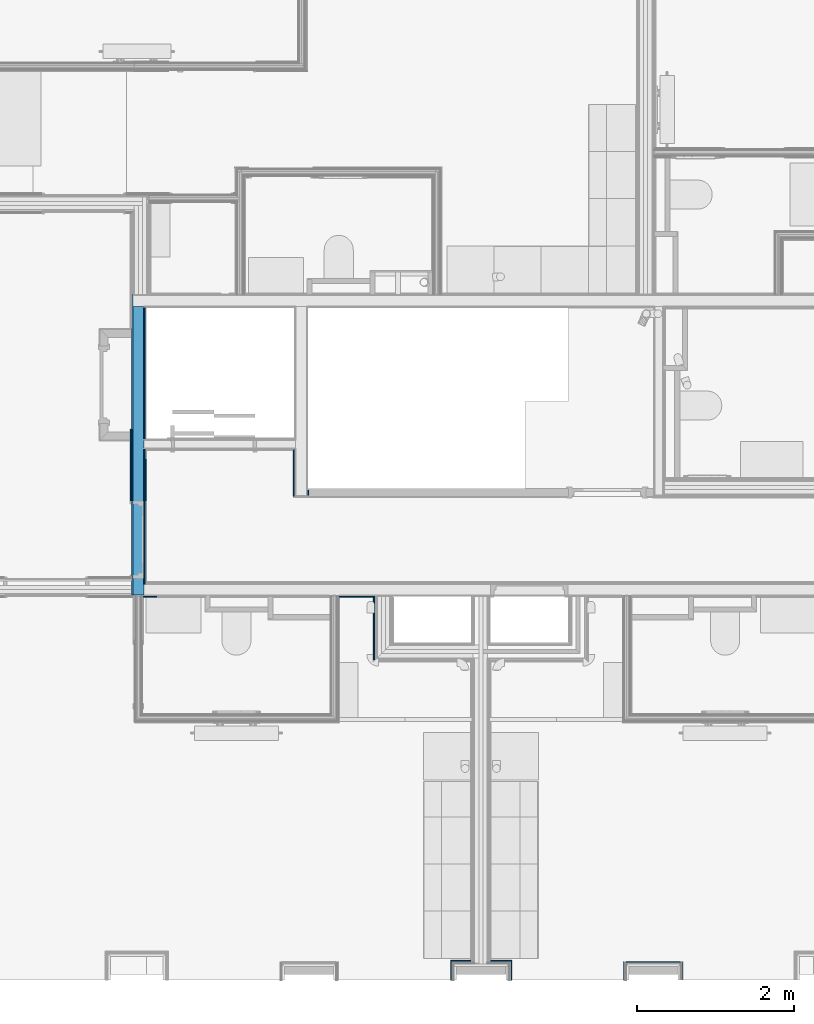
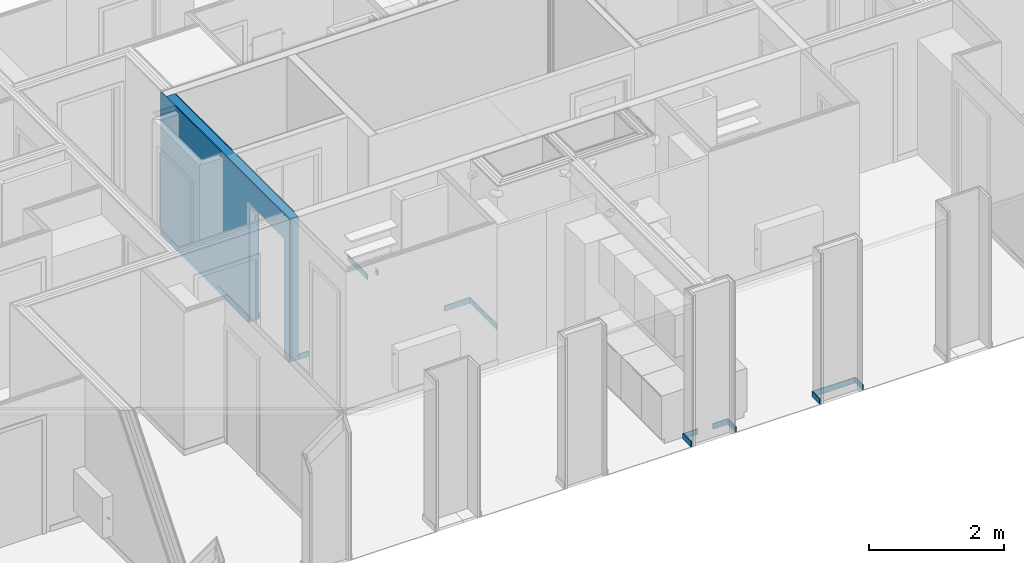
# One storey, part 30 of 85: 18 building element parts, 2 openings, 10 elements without a shape of their own.
"""IFC2X3 building model written with IfcOpenShell, lengths in metres."""

import ifcopenshell
import ifcopenshell.guid

model = None  # the IFC model being written
_history = None  # IfcOwnerHistory: only IFC2X3 demands one
_inside = {}  # id of a spatial element -> (the spatial element, [elements in it])
_under = {}  # id of a project, library or spatial element -> (it, [spatial elements below it])
_declared = {}  # id of a project -> (the project, [libraries it declares])
_typed = {}  # id of a type object -> (the type object, [elements of that type])
_made_of = {}  # id of a material, layer set ... -> (it, [elements and type objects made of it])


def new_model(schema):
    """Start an empty IFC model of exactly this schema.

    Asked for "IFC4X3", IfcOpenShell would pick the latest addendum, in which some entities
    have other attributes; the version numbers below select the first issue.
    IFC2X3 requires an IfcOwnerHistory on every rooted entity: one is made here for all.
    """
    global model, _history
    if schema == "IFC4X3":
        model = ifcopenshell.file(schema_version=(4, 3, 0, 0))
    else:
        model = ifcopenshell.file(schema=schema)
    _inside.clear()
    _under.clear()
    _declared.clear()
    _typed.clear()
    _made_of.clear()
    _history = None
    if model.schema == "IFC2X3":
        org = make("IfcOrganization", Name="unknown")
        user = make(
            "IfcPersonAndOrganization",
            ThePerson=make("IfcPerson", FamilyName="unknown"),
            TheOrganization=org,
        )
        app = make(
            "IfcApplication",
            ApplicationDeveloper=org,
            Version="unknown",
            ApplicationFullName="unknown",
            ApplicationIdentifier="unknown",
        )
        _history = make(
            "IfcOwnerHistory",
            OwningUser=user,
            OwningApplication=app,
            ChangeAction="ADDED",
            CreationDate=0,
        )
    return model


def make(cls, **values):
    """One entity of the class cls with the attributes given. An attribute that is None is left unset."""
    return model.create_entity(
        cls, **{name: value for name, value in values.items() if value is not None}
    )


def entity(cls, *values):
    """Any entity or typed value of the class cls, its attributes in the order of the schema. None: left unset."""
    e = model.create_entity(cls)
    for i, value in enumerate(values):
        if value is not None:
            e[i] = value
    return e


def rooted(cls, **values):
    """An entity with a GlobalId (a new one), such as an element, a storey or a relation."""
    return make(cls, GlobalId=ifcopenshell.guid.new(), OwnerHistory=_history, **values)


def si_unit(unit_type, name, prefix=None):
    """IfcSIUnit, for example si_unit("LENGTHUNIT", "METRE", prefix="MILLI")."""
    return make("IfcSIUnit", UnitType=unit_type, Prefix=prefix, Name=name)


def converted_unit(unit_type, name, factor, base, dimensions=None, offset=None):
    """IfcConversionBasedUnit, such as the inch: factor (a typed value) times the base unit."""
    return make(
        "IfcConversionBasedUnit"
        if offset is None
        else "IfcConversionBasedUnitWithOffset",
        ConversionOffset=offset,
        Dimensions=None
        if dimensions is None
        else entity("IfcDimensionalExponents", *dimensions),
        UnitType=unit_type,
        Name=name,
        ConversionFactor=make(
            "IfcMeasureWithUnit", ValueComponent=factor, UnitComponent=base
        ),
    )


def derived_unit(unit_type, elements):
    """IfcDerivedUnit: a product of units, each with its exponent."""
    return make(
        "IfcDerivedUnit",
        Elements=[
            make("IfcDerivedUnitElement", Unit=unit, Exponent=power)
            for unit, power in elements
        ],
        UnitType=unit_type,
    )


def money_unit(currency):
    """IfcMonetaryUnit."""
    return make("IfcMonetaryUnit", Currency=currency)


def assignment(units):
    """IfcUnitAssignment: the units of a project."""
    return None if units is None else make("IfcUnitAssignment", Units=units)


def point(xyz):
    """IfcCartesianPoint."""
    return None if xyz is None else make("IfcCartesianPoint", Coordinates=xyz)


def direction(xyz):
    """IfcDirection."""
    return None if xyz is None else make("IfcDirection", DirectionRatios=xyz)


def frame(location, z_axis=None, x_axis=None):
    """IfcAxis2Placement3D, a coordinate frame: its origin and axes. An axis left out is left unset."""
    return make(
        "IfcAxis2Placement3D",
        Location=point(location),
        Axis=direction(z_axis),
        RefDirection=direction(x_axis),
    )


def frame_2d(location, x_axis=None):
    """IfcAxis2Placement2D, a coordinate frame in the plane: its origin and x axis."""
    return make(
        "IfcAxis2Placement2D", Location=point(location), RefDirection=direction(x_axis)
    )


def origin_with_axes():
    """The frame at (0, 0, 0) with the z axis (0, 0, 1) and the x axis (1, 0, 0) written out."""
    return frame((0.0, 0.0, 0.0), z_axis=(0.0, 0.0, 1.0), x_axis=(1.0, 0.0, 0.0))


def place(relative_to, where):
    """IfcLocalPlacement: puts the frame where relative to a parent placement (None: the world)."""
    return make(
        "IfcLocalPlacement", PlacementRelTo=relative_to, RelativePlacement=where
    )


def context(
    kind, dimensions, precision=None, world=None, true_north=None, identifier=None
):
    """IfcGeometricRepresentationContext, for example the 3D "Model" context."""
    return make(
        "IfcGeometricRepresentationContext",
        ContextIdentifier=identifier,
        ContextType=kind,
        CoordinateSpaceDimension=dimensions,
        Precision=precision,
        WorldCoordinateSystem=world,
        TrueNorth=true_north,
    )


def subcontext(parent, identifier, kind, view, scale=None):
    """IfcGeometricRepresentationSubContext, for example "Body" below "Model"."""
    return make(
        "IfcGeometricRepresentationSubContext",
        ContextIdentifier=identifier,
        ContextType=kind,
        ParentContext=parent,
        TargetScale=scale,
        TargetView=view,
    )


def project(units=None, contexts=None):
    """IfcProject with its units and contexts."""
    return rooted(
        "IfcProject",
        Name="project",
        RepresentationContexts=contexts,
        UnitsInContext=assignment(units),
    )


def spatial(cls, under=None, at=None, **own):
    """A site, building, storey or space (cls), placed at a placement, below another one or the project."""
    s = rooted(cls, ObjectPlacement=at, **own)
    if under is not None:
        _under.setdefault(under.id(), (under, []))[1].append(s)
    return s


def polyline(points):
    """IfcPolyline through the points."""
    return make("IfcPolyline", Points=[point(p) for p in points])


def profile(cls, at=None, kind="AREA", **sizes):
    """A parametric profile (cls). Its sizes go by their IFC names, for example OverallWidth=200.0."""
    return make(cls, ProfileType=kind, Position=at, **sizes)


def rectangle(**sizes):
    """IfcRectangleProfileDef."""
    return profile("IfcRectangleProfileDef", **sizes)


def outline(outer, holes=None, kind="AREA"):
    """IfcArbitraryClosedProfileDef: a profile drawn as a closed curve; with holes, ...WithVoids."""
    if holes is None:
        return make("IfcArbitraryClosedProfileDef", ProfileType=kind, OuterCurve=outer)
    return make(
        "IfcArbitraryProfileDefWithVoids",
        ProfileType=kind,
        OuterCurve=outer,
        InnerCurves=holes,
    )


def extrude(swept, where, along, depth):
    """IfcExtrudedAreaSolid: the profile swept, set in the frame where, extruded along a direction by depth."""
    return make(
        "IfcExtrudedAreaSolid",
        SweptArea=swept,
        Position=where,
        ExtrudedDirection=direction(along),
        Depth=depth,
    )


def shape(context_of_items, identifier, shape_type, items):
    """IfcShapeRepresentation: the items that make up one representation, for example the "Body"."""
    return make(
        "IfcShapeRepresentation",
        ContextOfItems=context_of_items,
        RepresentationIdentifier=identifier,
        RepresentationType=shape_type,
        Items=items,
    )


def material(Name=None, Category=None):
    """IfcMaterial."""
    return make("IfcMaterial", Name=Name, Category=Category)


def made_of(thing, what):
    """Note that an element or type object is made of a material, layer set ...; save() writes the relation."""
    if what is not None:
        _made_of.setdefault(what.id(), (what, []))[1].append(thing)
    return thing


def type_object(cls, material=None, **own):
    """A type object (cls), such as IfcWallType, which elements share."""
    return made_of(rooted(cls, **own), material)


def element(
    cls,
    number,
    at=None,
    inside=None,
    cuts=None,
    type_object=None,
    material=None,
    context=None,
    identifier="Body",
    shape_type=None,
    held_by="IfcProductDefinitionShape",
    body=None,
    shapes=None,
    **own,
):
    """One element of the class cls, such as IfcWall. Its Tag is "e" and its number.

    at: its placement. inside: the storey or other place that contains it. cuts: it is an
    opening in that element (IfcRelVoidsElement). A single representation is given by context,
    identifier, shape_type and body (its items); several are given by shapes. held_by: the class
    of the entity that holds the representations. save() writes the other relations.
    """
    e = rooted(cls, Tag="e%d" % number, ObjectPlacement=at, **own)
    if body is not None:
        shapes = [shape(context, identifier, shape_type, body)]
    if shapes is not None:
        e.Representation = make(held_by, Representations=shapes)
    if inside is not None:
        _inside.setdefault(inside.id(), (inside, []))[1].append(e)
    if cuts is not None:
        rooted(
            "IfcRelVoidsElement", RelatingBuildingElement=cuts, RelatedOpeningElement=e
        )
    if type_object is not None:
        _typed.setdefault(type_object.id(), (type_object, []))[1].append(e)
    return made_of(e, material)


def aggregate(whole, parts):
    """IfcRelAggregates: a whole, such as a stair, and the parts it consists of."""
    return rooted("IfcRelAggregates", RelatingObject=whole, RelatedObjects=parts)


def save(model, path):
    """Write the relations noted so far, then the file.

    IfcRelAggregates (storeys below a building ...), IfcRelContainedInSpatialStructure (elements
    in a storey), IfcRelDefinesByType, IfcRelAssociatesMaterial and IfcRelDeclares: one each for
    every whole, place, type object, material and project.
    """
    for whole, parts in _under.values():
        aggregate(whole, parts)
    for where, things in _inside.values():
        rooted(
            "IfcRelContainedInSpatialStructure",
            RelatedElements=things,
            RelatingStructure=where,
        )
    for kind, things in _typed.values():
        rooted("IfcRelDefinesByType", RelatedObjects=things, RelatingType=kind)
    for what, things in _made_of.values():
        rooted("IfcRelAssociatesMaterial", RelatedObjects=things, RelatingMaterial=what)
    for by, libraries in _declared.values():
        rooted("IfcRelDeclares", RelatingContext=by, RelatedDefinitions=libraries)
    model.write(path)


model = new_model("IFC2X3")

# Units and contexts
model_context = context("Model", 3, precision=1e-05, world=origin_with_axes(), true_north=direction((0.0, 1.0)))
body_context = subcontext(model_context, "Body", "Model", "MODEL_VIEW", scale=1.0)
ifc_project = project(units=[si_unit("LENGTHUNIT", "METRE"), si_unit("AREAUNIT", "SQUARE_METRE"), si_unit("VOLUMEUNIT", "CUBIC_METRE"), si_unit("ABSORBEDDOSEUNIT", "GRAY"), si_unit("AMOUNTOFSUBSTANCEUNIT", "MOLE"), si_unit("DOSEEQUIVALENTUNIT", "SIEVERT"), si_unit("ELECTRICCAPACITANCEUNIT", "FARAD"), si_unit("ELECTRICCHARGEUNIT", "COULOMB"), si_unit("ELECTRICCONDUCTANCEUNIT", "SIEMENS"), si_unit("ELECTRICCURRENTUNIT", "AMPERE"), si_unit("ELECTRICRESISTANCEUNIT", "OHM"), si_unit("ELECTRICVOLTAGEUNIT", "VOLT"), si_unit("ENERGYUNIT", "JOULE"), si_unit("FORCEUNIT", "NEWTON"), si_unit("FREQUENCYUNIT", "HERTZ"), si_unit("ILLUMINANCEUNIT", "LUX"), si_unit("INDUCTANCEUNIT", "HENRY"), si_unit("LUMINOUSFLUXUNIT", "LUMEN"), si_unit("LUMINOUSINTENSITYUNIT", "CANDELA"), si_unit("MAGNETICFLUXDENSITYUNIT", "TESLA"), si_unit("MAGNETICFLUXUNIT", "WEBER"), si_unit("MASSUNIT", "GRAM"), converted_unit("PLANEANGLEUNIT", "degree", entity("IfcReal", 0.0174532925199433), si_unit("PLANEANGLEUNIT", "RADIAN"), dimensions=[0, 0, 0, 0, 0, 0, 0]), si_unit("POWERUNIT", "WATT"), si_unit("PRESSUREUNIT", "PASCAL"), si_unit("RADIOACTIVITYUNIT", "BECQUEREL"), si_unit("SOLIDANGLEUNIT", "STERADIAN"), si_unit("THERMODYNAMICTEMPERATUREUNIT", "KELVIN"), si_unit("TIMEUNIT", "SECOND"), derived_unit("ACCELERATIONUNIT", [(si_unit("LENGTHUNIT", "METRE"), 1), (si_unit("TIMEUNIT", "SECOND"), -2)]), derived_unit("ANGULARVELOCITYUNIT", [(converted_unit("PLANEANGLEUNIT", "degree", entity("IfcReal", 0.0174532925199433), si_unit("PLANEANGLEUNIT", "RADIAN"), dimensions=[0, 0, 0, 0, 0, 0, 0]), 1), (si_unit("TIMEUNIT", "SECOND"), -1)]), derived_unit("CURVATUREUNIT", [(converted_unit("PLANEANGLEUNIT", "degree", entity("IfcReal", 0.0174532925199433), si_unit("PLANEANGLEUNIT", "RADIAN"), dimensions=[0, 0, 0, 0, 0, 0, 0]), 1), (si_unit("LENGTHUNIT", "METRE"), -1)]), derived_unit("DYNAMICVISCOSITYUNIT", [(si_unit("PRESSUREUNIT", "PASCAL"), 1), (si_unit("TIMEUNIT", "SECOND"), 1)]), derived_unit("HEATFLUXDENSITYUNIT", [(si_unit("POWERUNIT", "WATT"), 1), (si_unit("LENGTHUNIT", "METRE"), -2)]), derived_unit("HEATINGVALUEUNIT", [(si_unit("ENERGYUNIT", "JOULE"), 1), (si_unit("MASSUNIT", "GRAM"), -1)]), derived_unit("INTEGERCOUNTRATEUNIT", [(si_unit("TIMEUNIT", "SECOND"), -1)]), derived_unit("IONCONCENTRATIONUNIT", [(si_unit("MASSUNIT", "GRAM"), 1), (si_unit("VOLUMEUNIT", "CUBIC_METRE"), -1)]), derived_unit("ISOTHERMALMOISTURECAPACITYUNIT", [(si_unit("VOLUMEUNIT", "CUBIC_METRE"), 1), (si_unit("MASSUNIT", "GRAM"), -1)]), derived_unit("KINEMATICVISCOSITYUNIT", [(si_unit("AREAUNIT", "SQUARE_METRE"), 1), (si_unit("TIMEUNIT", "SECOND"), -1)]), derived_unit("LINEARFORCEUNIT", [(si_unit("FORCEUNIT", "NEWTON"), 1), (si_unit("LENGTHUNIT", "METRE"), -1)]), derived_unit("LINEARMOMENTUNIT", [(si_unit("FORCEUNIT", "NEWTON"), 1), (si_unit("LENGTHUNIT", "METRE"), -1)]), derived_unit("LINEARSTIFFNESSUNIT", [(si_unit("FORCEUNIT", "NEWTON"), 1), (si_unit("LENGTHUNIT", "METRE"), -1)]), derived_unit("LINEARVELOCITYUNIT", [(si_unit("LENGTHUNIT", "METRE"), 1), (si_unit("TIMEUNIT", "SECOND"), -1)]), derived_unit("LUMINOUSINTENSITYDISTRIBUTIONUNIT", [(si_unit("LUMINOUSINTENSITYUNIT", "CANDELA"), 1), (si_unit("LUMINOUSFLUXUNIT", "LUMEN"), -1)]), derived_unit("MASSDENSITYUNIT", [(si_unit("MASSUNIT", "GRAM"), 1), (si_unit("VOLUMEUNIT", "CUBIC_METRE"), -1)]), derived_unit("MASSFLOWRATEUNIT", [(si_unit("MASSUNIT", "GRAM"), 1), (si_unit("TIMEUNIT", "SECOND"), -1)]), derived_unit("MASSPERLENGTHUNIT", [(si_unit("MASSUNIT", "GRAM"), 1), (si_unit("LENGTHUNIT", "METRE"), -1)]), derived_unit("MODULUSOFELASTICITYUNIT", [(si_unit("FORCEUNIT", "NEWTON"), 1), (si_unit("AREAUNIT", "SQUARE_METRE"), -1)]), derived_unit("MODULUSOFLINEARSUBGRADEREACTIONUNIT", [(si_unit("FORCEUNIT", "NEWTON"), 1), (si_unit("LENGTHUNIT", "METRE"), -2)]), derived_unit("MODULUSOFROTATIONALSUBGRADEREACTIONUNIT", [(si_unit("FORCEUNIT", "NEWTON"), 1), (si_unit("LENGTHUNIT", "METRE"), 1)]), derived_unit("MODULUSOFSUBGRADEREACTIONUNIT", [(si_unit("FORCEUNIT", "NEWTON"), 1), (si_unit("VOLUMEUNIT", "CUBIC_METRE"), -1)]), derived_unit("MOISTUREDIFFUSIVITYUNIT", [(si_unit("VOLUMEUNIT", "CUBIC_METRE"), 1), (si_unit("TIMEUNIT", "SECOND"), -1)]), derived_unit("MOLECULARWEIGHTUNIT", [(si_unit("MASSUNIT", "GRAM"), 1), (si_unit("AMOUNTOFSUBSTANCEUNIT", "MOLE"), -1)]), derived_unit("PLANARFORCEUNIT", [(si_unit("FORCEUNIT", "NEWTON"), 1), (si_unit("LENGTHUNIT", "METRE"), -2)]), derived_unit("ROTATIONALFREQUENCYUNIT", [(si_unit("TIMEUNIT", "SECOND"), -1)]), derived_unit("ROTATIONALMASSUNIT", [(si_unit("MASSUNIT", "GRAM"), 1), (si_unit("LENGTHUNIT", "METRE"), 2)]), derived_unit("ROTATIONALSTIFFNESSUNIT", [(si_unit("FORCEUNIT", "NEWTON"), 1), (si_unit("LENGTHUNIT", "METRE"), 1), (converted_unit("PLANEANGLEUNIT", "degree", entity("IfcReal", 0.0174532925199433), si_unit("PLANEANGLEUNIT", "RADIAN"), dimensions=[0, 0, 0, 0, 0, 0, 0]), -1)]), derived_unit("SECTIONAREAINTEGRALUNIT", [(si_unit("LENGTHUNIT", "METRE"), 5)]), derived_unit("SECTIONMODULUSUNIT", [(si_unit("LENGTHUNIT", "METRE"), 3)]), derived_unit("SHEARMODULUSUNIT", [(si_unit("FORCEUNIT", "NEWTON"), 1), (si_unit("AREAUNIT", "SQUARE_METRE"), -1)]), derived_unit("SOUNDPOWERUNIT", [(si_unit("ENERGYUNIT", "JOULE"), 1), (si_unit("TIMEUNIT", "SECOND"), -1)]), derived_unit("SPECIFICHEATCAPACITYUNIT", [(si_unit("FORCEUNIT", "NEWTON"), 1), (si_unit("MASSUNIT", "GRAM"), -1), (si_unit("THERMODYNAMICTEMPERATUREUNIT", "KELVIN"), -1)]), derived_unit("TEMPERATUREGRADIENTUNIT", [(si_unit("THERMODYNAMICTEMPERATUREUNIT", "KELVIN"), 1), (si_unit("LENGTHUNIT", "METRE"), -1)]), derived_unit("THERMALADMITTANCEUNIT", [(si_unit("POWERUNIT", "WATT"), 1), (si_unit("AREAUNIT", "SQUARE_METRE"), -1), (si_unit("THERMODYNAMICTEMPERATUREUNIT", "KELVIN"), -1)]), derived_unit("THERMALCONDUCTANCEUNIT", [(si_unit("POWERUNIT", "WATT"), 1), (si_unit("LENGTHUNIT", "METRE"), -1), (si_unit("THERMODYNAMICTEMPERATUREUNIT", "KELVIN"), -1)]), derived_unit("THERMALEXPANSIONCOEFFICIENTUNIT", [(si_unit("THERMODYNAMICTEMPERATUREUNIT", "KELVIN"), -1)]), derived_unit("THERMALRESISTANCEUNIT", [(si_unit("AREAUNIT", "SQUARE_METRE"), 1), (si_unit("POWERUNIT", "WATT"), -1)]), derived_unit("THERMALTRANSMITTANCEUNIT", [(si_unit("POWERUNIT", "WATT"), 1), (si_unit("AREAUNIT", "SQUARE_METRE"), -1), (si_unit("THERMODYNAMICTEMPERATUREUNIT", "KELVIN"), -1)]), derived_unit("TORQUEUNIT", [(si_unit("FORCEUNIT", "NEWTON"), 1), (si_unit("LENGTHUNIT", "METRE"), 1)]), derived_unit("VAPORPERMEABILITYUNIT", [(si_unit("MASSUNIT", "GRAM"), 1), (si_unit("TIMEUNIT", "SECOND"), -1)]), derived_unit("VOLUMETRICFLOWRATEUNIT", [(si_unit("VOLUMEUNIT", "CUBIC_METRE"), 1), (si_unit("TIMEUNIT", "SECOND"), -1)]), derived_unit("WARPINGCONSTANTUNIT", [(si_unit("LENGTHUNIT", "METRE"), 6)]), derived_unit("WARPINGMOMENTUNIT", [(si_unit("FORCEUNIT", "NEWTON"), 1), (si_unit("LENGTHUNIT", "METRE"), 2)]), money_unit("GBP")], contexts=[model_context])

# Site, building, storey
site_placement = place(None, origin_with_axes())
site = spatial("IfcSite", under=ifc_project, at=site_placement, Name="Site", CompositionType="ELEMENT")
building_placement = place(site_placement, origin_with_axes())
building = spatial("IfcBuilding", under=site, at=building_placement, Name="Building01", CompositionType="ELEMENT")
storey_placement = place(building_placement, frame((0.0, 0.0, 12.13), z_axis=(0.0, 0.0, 1.0), x_axis=(1.0, 0.0, 0.0)))
storey = spatial("IfcBuildingStorey", under=building, at=storey_placement, Name="3F", CompositionType="ELEMENT", Elevation=12.13)

# Wall, openings, building element parts
wall_type_1 = type_object("IfcWallType", Name="SHE_A-Walls_Type03a_BlockworkWall_170mm", PredefinedType="NOTDEFINED")
wall_1_placement = place(storey_placement, frame((9.075, 8.665, 0.0), z_axis=(0.0, 0.0, 1.0), x_axis=(0.0, -1.0, 0.0)))
wall_1 = element("IfcWall", 1, at=wall_1_placement, inside=storey, type_object=wall_type_1, Name="4B", ObjectType="SHE_A-Walls_Type03a_BlockworkWall_170mm")
opening_1_placement = place(wall_1_placement, frame((2.527281, -0.03, 0.0), z_axis=(0.0, 0.0, 1.0), x_axis=(1.0, 0.0, 0.0)))
element("IfcOpeningElement", 2, at=opening_1_placement, cuts=wall_1, Name="Opening", ObjectType="Opening", context=body_context, shape_type="SweptSolid", body=[
    extrude(rectangle(XDim=0.984, YDim=2.142, at=frame_2d((-0.492, 1.071), x_axis=(1.0, 0.0))), frame((0.0, 0.0, 0.0), z_axis=(0.0, 1.0, 0.0), x_axis=(-1.0, 0.0, 0.0)), (0.0, 0.0, 1.0), 0.2),
])
opening_2_placement = place(wall_1_placement, frame((2.473, -0.03, 0.0), z_axis=(0.0, 0.0, 1.0), x_axis=(1.0, 0.0, 0.0)))
element("IfcOpeningElement", 3, at=opening_2_placement, cuts=wall_1, Name="Opening", ObjectType="Opening", context=body_context, shape_type="SweptSolid", body=[
    extrude(rectangle(XDim=2.142, YDim=0.984, at=frame_2d((-0.492, 1.071), x_axis=(0.0, -1.0))), frame((0.0, 0.0, 0.0), z_axis=(0.0, 1.0, 0.0), x_axis=(-1.0, 0.0, 0.0)), (0.0, 0.0, 1.0), 0.2),
])
ifc_material_1 = material(Name="A_BSUK_Walls_Timber")
placement_1 = place(wall_1_placement, origin_with_axes())
building_element_part_1 = element("IfcBuildingElementPart", 4, at=placement_1, material=ifc_material_1, Name="1", context=body_context, shape_type="SweptSolid", body=[
    extrude(rectangle(XDim=1.883405, YDim=0.015, at=frame_2d((2.503298, -0.0225), x_axis=(-1.0, 0.0))), frame((0.0, 0.0, 0.015), z_axis=(0.0, 0.0, 1.0), x_axis=(1.0, 0.0, 0.0)), (0.0, 0.0, 1.0), 0.1),
])
ifc_material_2 = material(Name="A_BSUK_WallInternal_Finishes_Plasterboard")
building_element_part_2 = element("IfcBuildingElementPart", 5, at=placement_1, material=ifc_material_2, Name="2", context=body_context, shape_type="SweptSolid", body=[
    extrude(rectangle(XDim=3.825, YDim=0.015, at=frame_2d((1.7575, -0.0075), x_axis=(-1.0, 0.0))), origin_with_axes(), (0.0, 0.0, 1.0), 2.59),
])
ifc_material_3 = material(Name="A_BSUK_WallsInternal_Block")
building_element_part_3 = element("IfcBuildingElementPart", 6, at=placement_1, material=ifc_material_3, Name="3", context=body_context, shape_type="SweptSolid", body=[
    extrude(rectangle(XDim=3.67, YDim=0.14, at=frame_2d((1.835, 0.07), x_axis=(-1.0, 0.0))), origin_with_axes(), (0.0, 0.0, 1.0), 2.59),
])
ifc_material_4 = material(Name="A_BSUK_WallInternal_Finishes_Plaster")
building_element_part_4 = element("IfcBuildingElementPart", 7, at=placement_1, material=ifc_material_4, Name="4", context=body_context, shape_type="SweptSolid", body=[
    extrude(rectangle(XDim=1.67, YDim=0.015, at=frame_2d((0.85, 0.1475), x_axis=(-1.0, 0.0))), origin_with_axes(), (0.0, 0.0, 1.0), 2.59),
])
building_element_part_5 = element("IfcBuildingElementPart", 8, at=placement_1, material=ifc_material_4, Name="5", context=body_context, shape_type="SweptSolid", body=[
    extrude(rectangle(XDim=1.715, YDim=0.015, at=frame_2d((2.6725, 0.1475), x_axis=(-1.0, 0.0))), origin_with_axes(), (0.0, 0.0, 1.0), 2.59),
])
building_element_part_6 = element("IfcBuildingElementPart", 9, at=placement_1, material=ifc_material_1, Name="6", context=body_context, shape_type="SweptSolid", body=[
    extrude(outline(polyline([(3.5, 0.17), (1.940919, 0.17), (1.955919, 0.155), (3.5, 0.155), (3.5, 0.17)])), frame((0.0, 0.0, 0.015), z_axis=(0.0, 0.0, 1.0), x_axis=(1.0, 0.0, 0.0)), (0.0, 0.0, 1.0), 0.1),
])
aggregate(wall_1, [building_element_part_1, building_element_part_2, building_element_part_3, building_element_part_4, building_element_part_5, building_element_part_6])

# Wall, building element parts
wall_2_placement = place(storey_placement, frame((11.145, 6.263, 0.0), z_axis=(0.0, 0.0, 1.0), x_axis=(0.0, 1.0, 0.0)))
wall_2 = element("IfcWall", 10, at=wall_2_placement, inside=storey, type_object=wall_type_1, Name="4B", ObjectType="SHE_A-Walls_Type03a_BlockworkWall_170mm")
placement_2 = place(wall_2_placement, origin_with_axes())
building_element_part_7 = element("IfcBuildingElementPart", 11, at=placement_2, material=ifc_material_1, Name="1", context=body_context, shape_type="SweptSolid", body=[
    extrude(rectangle(XDim=0.062, YDim=0.015, at=frame_2d((0.031, -0.1625), x_axis=(-1.0, 0.0))), frame((0.0, 0.0, 0.015), z_axis=(0.0, 0.0, 1.0), x_axis=(1.0, 0.0, 0.0)), (0.0, 0.0, 1.0), 0.1),
])
building_element_part_8 = element("IfcBuildingElementPart", 12, at=placement_2, material=ifc_material_1, Name="6", context=body_context, shape_type="SweptSolid", body=[
    extrude(outline(polyline([(0.572, 0.03), (-0.013, 0.03), (-0.013, 0.015), (0.587, 0.015), (0.572, 0.03)])), frame((0.0, 0.0, 0.015), z_axis=(0.0, 0.0, 1.0), x_axis=(1.0, 0.0, 0.0)), (0.0, 0.0, 1.0), 0.1),
])
aggregate(wall_2, [building_element_part_7, building_element_part_8])

# Wall, building element part
wall_type_2 = type_object("IfcWallType", Name="SHE_A-Walls_Type06d_ExternalWallInsulation_48mm", PredefinedType="NOTDEFINED")
wall_3_placement = place(storey_placement, frame((15.383, 0.1, 0.0), z_axis=(0.0, 0.0, 1.0), x_axis=(0.0, 1.0, 0.0)))
wall_3 = element("IfcWall", 13, at=wall_3_placement, inside=storey, type_object=wall_type_2, Name="6D", ObjectType="SHE_A-Walls_Type06d_ExternalWallInsulation_48mm")
building_element_part_9_placement = place(wall_3_placement, origin_with_axes())
building_element_part_9 = element("IfcBuildingElementPart", 14, at=building_element_part_9_placement, material=ifc_material_1, Name="3", context=body_context, shape_type="SweptSolid", body=[
    extrude(outline(polyline([(0.233, 0.063), (0.0, 0.063), (0.0, 0.048), (0.218, 0.048), (0.233, 0.063)])), frame((0.0, 0.0, 0.015), z_axis=(0.0, 0.0, 1.0), x_axis=(1.0, 0.0, 0.0)), (0.0, 0.0, 1.0), 0.1),
])
aggregate(wall_3, [building_element_part_9])

wall_4_placement = place(storey_placement, frame((15.383, 0.27, 0.0), z_axis=(0.0, 0.0, 1.0), x_axis=(1.0, 0.0, 0.0)))
wall_4 = element("IfcWall", 15, at=wall_4_placement, inside=storey, type_object=wall_type_2, Name="6D", ObjectType="SHE_A-Walls_Type06d_ExternalWallInsulation_48mm")
building_element_part_10_placement = place(wall_4_placement, origin_with_axes())
building_element_part_10 = element("IfcBuildingElementPart", 16, at=building_element_part_10_placement, material=ifc_material_1, Name="3", context=body_context, shape_type="SweptSolid", body=[
    extrude(outline(polyline([(0.687, 0.063), (-0.063, 0.063), (-0.048, 0.048), (0.672, 0.048), (0.687, 0.063)])), frame((0.0, 0.0, 0.015), z_axis=(0.0, 0.0, 1.0), x_axis=(1.0, 0.0, 0.0)), (0.0, 0.0, 1.0), 0.1),
])
aggregate(wall_4, [building_element_part_10])

wall_5_placement = place(storey_placement, frame((16.007, 0.27, 0.0), z_axis=(0.0, 0.0, 1.0), x_axis=(0.0, -1.0, 0.0)))
wall_5 = element("IfcWall", 17, at=wall_5_placement, inside=storey, type_object=wall_type_2, Name="6D", ObjectType="SHE_A-Walls_Type06d_ExternalWallInsulation_48mm")
building_element_part_11_placement = place(wall_5_placement, origin_with_axes())
building_element_part_11 = element("IfcBuildingElementPart", 18, at=building_element_part_11_placement, material=ifc_material_1, Name="3", context=body_context, shape_type="SweptSolid", body=[
    extrude(outline(polyline([(-0.063, 0.063), (-0.048, 0.048), (0.17, 0.048), (0.17, 0.063), (-0.063, 0.063)])), frame((0.0, 0.0, 0.015), z_axis=(0.0, 0.0, 1.0), x_axis=(1.0, 0.0, 0.0)), (0.0, 0.0, 1.0), 0.1),
])
aggregate(wall_5, [building_element_part_11])

wall_type_3 = type_object("IfcWallType", Name="SHE_A-Walls_Type01c_Partywall_225mm_twin_tall", PredefinedType="NOTDEFINED")
wall_6_placement = place(storey_placement, frame((12.288, 4.98, 0.0), z_axis=(0.0, 0.0, 1.0), x_axis=(0.0, -1.0, 0.0)))
wall_6 = element("IfcWall", 19, at=wall_6_placement, inside=storey, type_object=wall_type_3, Name="1C", ObjectType="SHE_A-Walls_Type01c_Partywall_225mm_twin_tall")
building_element_part_12_placement = place(wall_6_placement, origin_with_axes())
building_element_part_12 = element("IfcBuildingElementPart", 20, at=building_element_part_12_placement, material=ifc_material_1, Name="1", context=body_context, shape_type="SweptSolid", body=[
    extrude(rectangle(XDim=0.815572, YDim=0.015, at=frame_2d((0.407786, -0.1455), x_axis=(-1.0, 0.0))), frame((0.0, 0.0, 0.015), z_axis=(0.0, 0.0, 1.0), x_axis=(1.0, 0.0, 0.0)), (0.0, 0.0, 1.0), 0.1),
])
aggregate(wall_6, [building_element_part_12])

# Wall, building element parts
wall_7_placement = place(storey_placement, frame((9.215, 4.995, 0.0), z_axis=(0.0, 0.0, 1.0), x_axis=(1.0, 0.0, 0.0)))
wall_7 = element("IfcWall", 21, at=wall_7_placement, inside=storey, type_object=wall_type_1, Name="4B", ObjectType="SHE_A-Walls_Type03a_BlockworkWall_170mm")
placement_3 = place(wall_7_placement, origin_with_axes())
building_element_part_13 = element("IfcBuildingElementPart", 22, at=placement_3, material=ifc_material_1, Name="1", context=body_context, shape_type="SweptSolid", body=[
    extrude(rectangle(XDim=0.169464, YDim=0.015, at=frame_2d((0.077268, -0.0225), x_axis=(-1.0, 0.0))), frame((0.0, 0.0, 0.015), z_axis=(0.0, 0.0, 1.0), x_axis=(1.0, 0.0, 0.0)), (0.0, 0.0, 1.0), 0.1),
])
building_element_part_14 = element("IfcBuildingElementPart", 23, at=placement_3, material=ifc_material_1, Name="6", context=body_context, shape_type="SweptSolid", body=[
    extrude(rectangle(XDim=0.432464, YDim=0.015, at=frame_2d((2.703768, -0.0225), x_axis=(-1.0, 0.0))), frame((0.0, 0.0, 0.015), z_axis=(0.0, 0.0, 1.0), x_axis=(1.0, 0.0, 0.0)), (0.0, 0.0, 1.0), 0.1),
])
aggregate(wall_7, [building_element_part_13, building_element_part_14])

# Wall, building element part
wall_type_4 = type_object("IfcWallType", Name="SHE_A-Walls_Type06f_ExternalWallInsulation_48+15mm", PredefinedType="NOTDEFINED")
wall_8_placement = place(storey_placement, frame((13.193, 0.1, 0.0), z_axis=(0.0, 0.0, 1.0), x_axis=(0.0, -1.0, 0.0)))
wall_8 = element("IfcWall", 24, at=wall_8_placement, inside=storey, type_object=wall_type_4, Name="6F", ObjectType="SHE_A-Walls_Type06f_ExternalWallInsulation_48+15mm")
building_element_part_15_placement = place(wall_8_placement, origin_with_axes())
building_element_part_15 = element("IfcBuildingElementPart", 25, at=building_element_part_15_placement, material=ifc_material_1, Name="1", context=body_context, shape_type="SweptSolid", body=[
    extrude(outline(polyline([(-0.248, -0.078), (0.0, -0.078), (0.0, -0.063), (-0.233, -0.063), (-0.248, -0.078)])), frame((0.0, 0.0, 0.015), z_axis=(0.0, 0.0, 1.0), x_axis=(1.0, 0.0, 0.0)), (0.0, 0.0, 1.0), 0.1),
])
aggregate(wall_8, [building_element_part_15])

wall_9_placement = place(storey_placement, frame((13.817124, 0.1, 0.0), z_axis=(0.0, 0.0, 1.0), x_axis=(0.0, -1.0, 0.0)))
wall_9 = element("IfcWall", 26, at=wall_9_placement, inside=storey, type_object=wall_type_4, Name="6F", ObjectType="SHE_A-Walls_Type06f_ExternalWallInsulation_48+15mm")
building_element_part_16_placement = place(wall_9_placement, origin_with_axes())
building_element_part_16 = element("IfcBuildingElementPart", 27, at=building_element_part_16_placement, material=ifc_material_1, Name="4", context=body_context, shape_type="SweptSolid", body=[
    extrude(outline(polyline([(-0.233, 0.063), (0.0, 0.063), (0.0, 0.078), (-0.248, 0.078), (-0.233, 0.063)])), frame((0.0, 0.0, 0.015), z_axis=(0.0, 0.0, 1.0), x_axis=(1.0, 0.0, 0.0)), (0.0, 0.0, 1.0), 0.1),
])
aggregate(wall_9, [building_element_part_16])

# Wall, building element parts
wall_10_placement = place(storey_placement, frame((13.853124, 0.27, 0.0), z_axis=(0.0, 0.0, 1.0), x_axis=(-1.0, 0.0, 0.0)))
wall_10 = element("IfcWall", 28, at=wall_10_placement, inside=storey, type_object=wall_type_4, Name="6F", ObjectType="SHE_A-Walls_Type06f_ExternalWallInsulation_48+15mm")
placement_4 = place(wall_10_placement, origin_with_axes())
building_element_part_17 = element("IfcBuildingElementPart", 29, at=placement_4, material=ifc_material_1, Name="1", context=body_context, shape_type="SweptSolid", body=[
    extrude(outline(polyline([(-0.027, -0.063), (-0.042, -0.078), (0.225624, -0.078), (0.225624, -0.063), (-0.027, -0.063)])), frame((0.0, 0.0, 0.015), z_axis=(0.0, 0.0, 1.0), x_axis=(1.0, 0.0, 0.0)), (0.0, 0.0, 1.0), 0.1),
])
building_element_part_18 = element("IfcBuildingElementPart", 30, at=placement_4, material=ifc_material_1, Name="2", context=body_context, shape_type="SweptSolid", body=[
    extrude(outline(polyline([(0.723124, -0.063), (0.480624, -0.063), (0.480624, -0.078), (0.738124, -0.078), (0.723124, -0.063)])), frame((0.0, 0.0, 0.015), z_axis=(0.0, 0.0, 1.0), x_axis=(1.0, 0.0, 0.0)), (0.0, 0.0, 1.0), 0.1),
])
aggregate(wall_10, [building_element_part_17, building_element_part_18])

save(model, "model.ifc")
